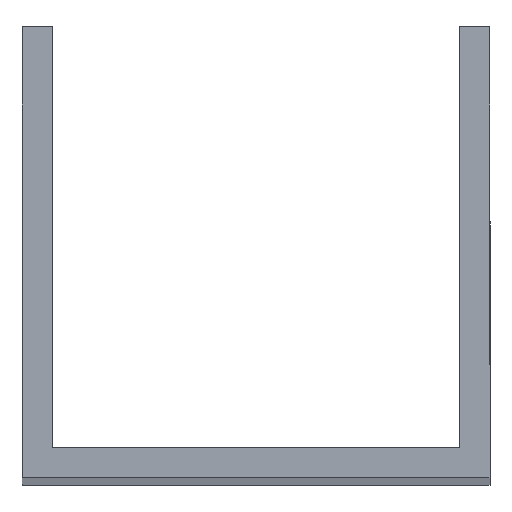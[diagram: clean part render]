
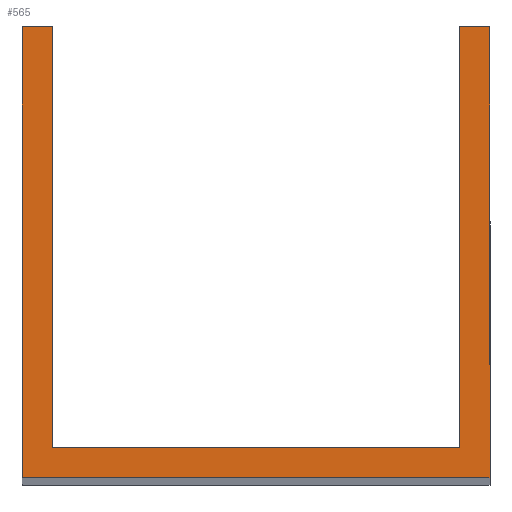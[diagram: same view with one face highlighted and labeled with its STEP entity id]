
A CAD part, top view. The second image highlights one B-rep face of the part: STEP entity #565.
In plain terms, the highlighted planar face has unit normal (0, 0, 1).
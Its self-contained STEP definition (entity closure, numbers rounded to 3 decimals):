
#11 = VERTEX_POINT ( 'NONE', #817 ) ;
#20 = DIRECTION ( 'NONE',  ( 1., 0., 0. ) ) ;
#78 = VECTOR ( 'NONE', #1106, 1000. ) ;
#118 = ORIENTED_EDGE ( 'NONE', *, *, #515, .F. ) ;
#127 = LINE ( 'NONE', #395, #151 ) ;
#151 = VECTOR ( 'NONE', #732, 1000. ) ;
#171 = VECTOR ( 'NONE', #418, 1000. ) ;
#174 = CARTESIAN_POINT ( 'NONE',  ( -27., 0., 250. ) ) ;
#179 = DIRECTION ( 'NONE',  ( 1., 0., 0. ) ) ;
#194 = CARTESIAN_POINT ( 'NONE',  ( -27., 0., 250. ) ) ;
#217 = DIRECTION ( 'NONE',  ( 0., -1., 0. ) ) ;
#223 = ORIENTED_EDGE ( 'NONE', *, *, #247, .T. ) ;
#226 = EDGE_CURVE ( 'NONE', #683, #952, #477, .T. ) ;
#247 = EDGE_CURVE ( 'NONE', #1011, #1005, #996, .T. ) ;
#253 = CARTESIAN_POINT ( 'NONE',  ( 0., 0., 250. ) ) ;
#256 = ORIENTED_EDGE ( 'NONE', *, *, #452, .T. ) ;
#276 = LINE ( 'NONE', #283, #643 ) ;
#283 = CARTESIAN_POINT ( 'NONE',  ( -27., 52., 250. ) ) ;
#303 = CARTESIAN_POINT ( 'NONE',  ( -27., 52., 250. ) ) ;
#309 = CARTESIAN_POINT ( 'NONE',  ( -23.5, 3.5, 250. ) ) ;
#364 = FACE_OUTER_BOUND ( 'NONE', #954, .T. ) ;
#395 = CARTESIAN_POINT ( 'NONE',  ( 27., 52., 250. ) ) ;
#407 = EDGE_CURVE ( 'NONE', #11, #1011, #127, .T. ) ;
#412 = CARTESIAN_POINT ( 'NONE',  ( -27., 3.5, 250. ) ) ;
#418 = DIRECTION ( 'NONE',  ( 0., -1., 0. ) ) ;
#422 = EDGE_CURVE ( 'NONE', #928, #753, #811, .T. ) ;
#423 = ORIENTED_EDGE ( 'NONE', *, *, #422, .F. ) ;
#433 = AXIS2_PLACEMENT_3D ( 'NONE', #253, #1056, #179 ) ;
#452 = EDGE_CURVE ( 'NONE', #952, #11, #627, .T. ) ;
#468 = CARTESIAN_POINT ( 'NONE',  ( -23.5, 52., 250. ) ) ;
#477 = LINE ( 'NONE', #303, #171 ) ;
#480 = EDGE_CURVE ( 'NONE', #947, #1005, #584, .T. ) ;
#495 = LINE ( 'NONE', #412, #78 ) ;
#515 = EDGE_CURVE ( 'NONE', #753, #947, #495, .T. ) ;
#555 = CARTESIAN_POINT ( 'NONE',  ( -27., 52., 250. ) ) ;
#565 = ADVANCED_FACE ( 'NONE', ( #364 ), #1040, .T. ) ;
#584 = LINE ( 'NONE', #1111, #814 ) ;
#609 = ORIENTED_EDGE ( 'NONE', *, *, #480, .F. ) ;
#624 = CARTESIAN_POINT ( 'NONE',  ( 23.5, 52., 250. ) ) ;
#627 = LINE ( 'NONE', #194, #737 ) ;
#643 = VECTOR ( 'NONE', #821, 1000. ) ;
#656 = EDGE_CURVE ( 'NONE', #928, #683, #276, .T. ) ;
#667 = DIRECTION ( 'NONE',  ( 0., 1., 0. ) ) ;
#683 = VERTEX_POINT ( 'NONE', #973 ) ;
#732 = DIRECTION ( 'NONE',  ( 0., 1., 0. ) ) ;
#737 = VECTOR ( 'NONE', #20, 1000. ) ;
#753 = VERTEX_POINT ( 'NONE', #309 ) ;
#811 = LINE ( 'NONE', #468, #941 ) ;
#814 = VECTOR ( 'NONE', #667, 1000. ) ;
#817 = CARTESIAN_POINT ( 'NONE',  ( 27., 0., 250. ) ) ;
#821 = DIRECTION ( 'NONE',  ( -1., 0., 0. ) ) ;
#827 = DIRECTION ( 'NONE',  ( -1., 0., 0. ) ) ;
#838 = ORIENTED_EDGE ( 'NONE', *, *, #226, .T. ) ;
#847 = ORIENTED_EDGE ( 'NONE', *, *, #656, .T. ) ;
#905 = ORIENTED_EDGE ( 'NONE', *, *, #407, .T. ) ;
#928 = VERTEX_POINT ( 'NONE', #1050 ) ;
#941 = VECTOR ( 'NONE', #217, 1000. ) ;
#947 = VERTEX_POINT ( 'NONE', #959 ) ;
#952 = VERTEX_POINT ( 'NONE', #174 ) ;
#954 = EDGE_LOOP ( 'NONE', ( #423, #847, #838, #256, #905, #223, #609, #118 ) ) ;
#959 = CARTESIAN_POINT ( 'NONE',  ( 23.5, 3.5, 250. ) ) ;
#973 = CARTESIAN_POINT ( 'NONE',  ( -27., 52., 250. ) ) ;
#996 = LINE ( 'NONE', #555, #1014 ) ;
#1005 = VERTEX_POINT ( 'NONE', #624 ) ;
#1011 = VERTEX_POINT ( 'NONE', #1062 ) ;
#1014 = VECTOR ( 'NONE', #827, 1000. ) ;
#1040 = PLANE ( 'NONE',  #433 ) ;
#1050 = CARTESIAN_POINT ( 'NONE',  ( -23.5, 52., 250. ) ) ;
#1056 = DIRECTION ( 'NONE',  ( 0., 0., 1. ) ) ;
#1062 = CARTESIAN_POINT ( 'NONE',  ( 27., 52., 250. ) ) ;
#1106 = DIRECTION ( 'NONE',  ( 1., 0., 0. ) ) ;
#1111 = CARTESIAN_POINT ( 'NONE',  ( 23.5, 52., 250. ) ) ;
